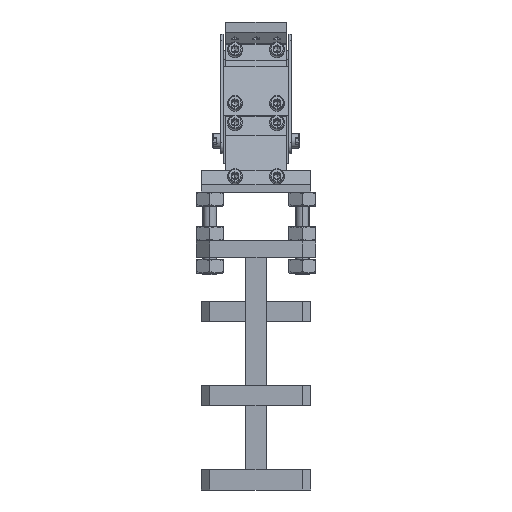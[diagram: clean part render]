
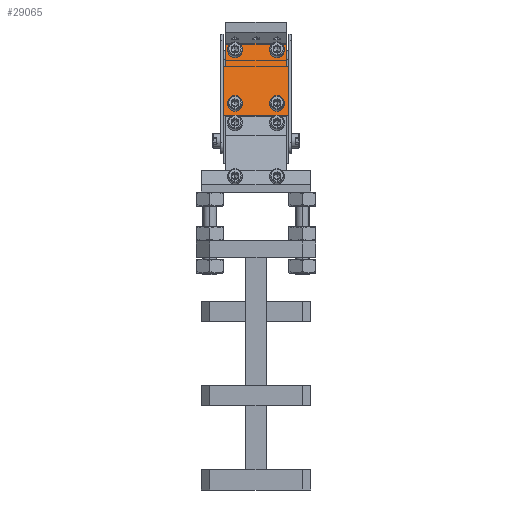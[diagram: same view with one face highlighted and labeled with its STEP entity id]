
A CAD part, left-side view. The second image highlights one B-rep face of the part: STEP entity #29065.
In plain terms, the highlighted planar face has unit normal (-0.966, 0, 0.259).
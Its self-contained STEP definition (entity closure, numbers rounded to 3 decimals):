
#19 = AXIS2_PLACEMENT_3D ( 'NONE', #15087, #7353, #29700 ) ;
#35 = CARTESIAN_POINT ( 'NONE',  ( -60.783, -12.5, 51.058 ) ) ;
#143 = DIRECTION ( 'NONE',  ( 0.259, 0., 0.966 ) ) ;
#219 = DIRECTION ( 'NONE',  ( 0., -1., 0. ) ) ;
#405 = ORIENTED_EDGE ( 'NONE', *, *, #21173, .F. ) ;
#503 = VERTEX_POINT ( 'NONE', #28128 ) ;
#518 = CIRCLE ( 'NONE', #19, 2.1 ) ;
#542 = EDGE_CURVE ( 'NONE', #6622, #27770, #30742, .T. ) ;
#599 = VERTEX_POINT ( 'NONE', #4452 ) ;
#787 = AXIS2_PLACEMENT_3D ( 'NONE', #12955, #30314, #29983 ) ;
#1167 = EDGE_CURVE ( 'NONE', #16539, #5334, #7156, .T. ) ;
#1653 = CARTESIAN_POINT ( 'NONE',  ( -61.327, 12.5, 49.029 ) ) ;
#1714 = CARTESIAN_POINT ( 'NONE',  ( -52.954, 12.5, 80.277 ) ) ;
#1766 = VERTEX_POINT ( 'NONE', #23495 ) ;
#1991 = EDGE_CURVE ( 'NONE', #30818, #3094, #20210, .T. ) ;
#2034 = VERTEX_POINT ( 'NONE', #5556 ) ;
#2304 = LINE ( 'NONE', #14088, #16663 ) ;
#2859 = CARTESIAN_POINT ( 'NONE',  ( -51.53, -12.5, 85.59 ) ) ;
#3008 = AXIS2_PLACEMENT_3D ( 'NONE', #29117, #31697, #17372 ) ;
#3094 = VERTEX_POINT ( 'NONE', #30283 ) ;
#4346 = ORIENTED_EDGE ( 'NONE', *, *, #9750, .F. ) ;
#4452 = CARTESIAN_POINT ( 'NONE',  ( -62.549, 19.5, 44.466 ) ) ;
#4656 = CIRCLE ( 'NONE', #18034, 2.75 ) ;
#4719 = ORIENTED_EDGE ( 'NONE', *, *, #16991, .F. ) ;
#5334 = VERTEX_POINT ( 'NONE', #23085 ) ;
#5556 = CARTESIAN_POINT ( 'NONE',  ( -52.954, -12.5, 80.277 ) ) ;
#5593 = EDGE_CURVE ( 'NONE', #3094, #16539, #19687, .T. ) ;
#5871 = VECTOR ( 'NONE', #24530, 1000. ) ;
#5911 = EDGE_CURVE ( 'NONE', #2034, #16981, #21715, .T. ) ;
#6123 = FACE_BOUND ( 'NONE', #23278, .T. ) ;
#6196 = EDGE_CURVE ( 'NONE', #29430, #13658, #19704, .T. ) ;
#6622 = VERTEX_POINT ( 'NONE', #31069 ) ;
#6628 = CARTESIAN_POINT ( 'NONE',  ( -60.24, -12.5, 53.086 ) ) ;
#6823 = ORIENTED_EDGE ( 'NONE', *, *, #28472, .F. ) ;
#6876 = CARTESIAN_POINT ( 'NONE',  ( -54.78, 18., 73.46 ) ) ;
#7156 = LINE ( 'NONE', #22111, #5871 ) ;
#7308 = ORIENTED_EDGE ( 'NONE', *, *, #8653, .T. ) ;
#7353 = DIRECTION ( 'NONE',  ( -0.966, 0., 0.259 ) ) ;
#7424 = VECTOR ( 'NONE', #19740, 1000. ) ;
#8335 = LINE ( 'NONE', #28123, #29855 ) ;
#8388 = FACE_BOUND ( 'NONE', #16494, .T. ) ;
#8484 = CARTESIAN_POINT ( 'NONE',  ( -54.78, -19.5, 73.46 ) ) ;
#8653 = EDGE_CURVE ( 'NONE', #503, #599, #28892, .T. ) ;
#8746 = DIRECTION ( 'NONE',  ( 0.259, 0., 0.966 ) ) ;
#8885 = AXIS2_PLACEMENT_3D ( 'NONE', #16455, #28506, #11152 ) ;
#8898 = CARTESIAN_POINT ( 'NONE',  ( -60.783, 12.5, 51.058 ) ) ;
#8953 = EDGE_LOOP ( 'NONE', ( #405, #20111 ) ) ;
#9367 = DIRECTION ( 'NONE',  ( -0.966, 0., 0.259 ) ) ;
#9394 = VECTOR ( 'NONE', #21091, 1000. ) ;
#9397 = CARTESIAN_POINT ( 'NONE',  ( -51.078, 0., 87.28 ) ) ;
#9655 = ORIENTED_EDGE ( 'NONE', *, *, #12550, .T. ) ;
#9750 = EDGE_CURVE ( 'NONE', #1766, #15996, #13493, .T. ) ;
#10040 = VERTEX_POINT ( 'NONE', #27853 ) ;
#10042 = CIRCLE ( 'NONE', #787, 2.1 ) ;
#10240 = CARTESIAN_POINT ( 'NONE',  ( -63.879, 18., 39.504 ) ) ;
#10756 = DIRECTION ( 'NONE',  ( 0., -1., 0. ) ) ;
#11152 = DIRECTION ( 'NONE',  ( 0.259, 0., 0.966 ) ) ;
#11503 = DIRECTION ( 'NONE',  ( 0., -1., 0. ) ) ;
#12550 = EDGE_CURVE ( 'NONE', #599, #15996, #30609, .T. ) ;
#12955 = CARTESIAN_POINT ( 'NONE',  ( -60.783, -12.5, 51.058 ) ) ;
#13194 = DIRECTION ( 'NONE',  ( -0.966, 0., 0.259 ) ) ;
#13358 = ORIENTED_EDGE ( 'NONE', *, *, #13783, .F. ) ;
#13493 = LINE ( 'NONE', #8484, #21132 ) ;
#13629 = ORIENTED_EDGE ( 'NONE', *, *, #29771, .F. ) ;
#13658 = VERTEX_POINT ( 'NONE', #1653 ) ;
#13783 = EDGE_CURVE ( 'NONE', #503, #30818, #2304, .T. ) ;
#14088 = CARTESIAN_POINT ( 'NONE',  ( -54.78, 0., 73.46 ) ) ;
#15087 = CARTESIAN_POINT ( 'NONE',  ( -60.783, 12.5, 51.058 ) ) ;
#15309 = ORIENTED_EDGE ( 'NONE', *, *, #6196, .F. ) ;
#15643 = CARTESIAN_POINT ( 'NONE',  ( -63.879, 0., 39.504 ) ) ;
#15798 = PLANE ( 'NONE',  #26696 ) ;
#15996 = VERTEX_POINT ( 'NONE', #25391 ) ;
#16209 = DIRECTION ( 'NONE',  ( -0.259, 0., -0.966 ) ) ;
#16229 = EDGE_LOOP ( 'NONE', ( #13358, #7308, #9655, #4346, #31100, #21928, #30182, #16260 ) ) ;
#16257 = CIRCLE ( 'NONE', #26510, 2.1 ) ;
#16260 = ORIENTED_EDGE ( 'NONE', *, *, #1991, .F. ) ;
#16455 = CARTESIAN_POINT ( 'NONE',  ( -52.242, -12.5, 82.933 ) ) ;
#16466 = VERTEX_POINT ( 'NONE', #6628 ) ;
#16494 = EDGE_LOOP ( 'NONE', ( #4719, #26274 ) ) ;
#16539 = VERTEX_POINT ( 'NONE', #22217 ) ;
#16663 = VECTOR ( 'NONE', #11503, 1000. ) ;
#16885 = AXIS2_PLACEMENT_3D ( 'NONE', #30698, #13194, #25882 ) ;
#16903 = CIRCLE ( 'NONE', #3008, 2.75 ) ;
#16981 = VERTEX_POINT ( 'NONE', #2859 ) ;
#16991 = EDGE_CURVE ( 'NONE', #16981, #2034, #4656, .T. ) ;
#17003 = EDGE_LOOP ( 'NONE', ( #19851, #6823 ) ) ;
#17124 = EDGE_CURVE ( 'NONE', #5334, #1766, #8335, .T. ) ;
#17372 = DIRECTION ( 'NONE',  ( 0.259, 0., 0.966 ) ) ;
#18034 = AXIS2_PLACEMENT_3D ( 'NONE', #29732, #27481, #143 ) ;
#18512 = DIRECTION ( 'NONE',  ( 0.966, 0., -0.259 ) ) ;
#19687 = LINE ( 'NONE', #9397, #29727 ) ;
#19704 = CIRCLE ( 'NONE', #24848, 2.1 ) ;
#19740 = DIRECTION ( 'NONE',  ( 0.259, 0., 0.966 ) ) ;
#19851 = ORIENTED_EDGE ( 'NONE', *, *, #542, .F. ) ;
#20111 = ORIENTED_EDGE ( 'NONE', *, *, #22120, .F. ) ;
#20210 = LINE ( 'NONE', #10240, #7424 ) ;
#20762 = FACE_BOUND ( 'NONE', #8953, .T. ) ;
#21091 = DIRECTION ( 'NONE',  ( 0., -1., 0. ) ) ;
#21132 = VECTOR ( 'NONE', #16209, 1000. ) ;
#21173 = EDGE_CURVE ( 'NONE', #16466, #10040, #16257, .T. ) ;
#21259 = CARTESIAN_POINT ( 'NONE',  ( -62.549, -19.5, 44.466 ) ) ;
#21281 = DIRECTION ( 'NONE',  ( -0.966, 0., 0.259 ) ) ;
#21715 = CIRCLE ( 'NONE', #8885, 2.75 ) ;
#21928 = ORIENTED_EDGE ( 'NONE', *, *, #1167, .F. ) ;
#22111 = CARTESIAN_POINT ( 'NONE',  ( -63.879, -18., 39.504 ) ) ;
#22120 = EDGE_CURVE ( 'NONE', #10040, #16466, #10042, .T. ) ;
#22172 = VECTOR ( 'NONE', #24216, 1000. ) ;
#22217 = CARTESIAN_POINT ( 'NONE',  ( -51.078, -18., 87.28 ) ) ;
#22855 = DIRECTION ( 'NONE',  ( -0.259, 0., -0.966 ) ) ;
#23085 = CARTESIAN_POINT ( 'NONE',  ( -54.78, -18., 73.46 ) ) ;
#23278 = EDGE_LOOP ( 'NONE', ( #15309, #13629 ) ) ;
#23495 = CARTESIAN_POINT ( 'NONE',  ( -54.78, -19.5, 73.46 ) ) ;
#24216 = DIRECTION ( 'NONE',  ( -0.259, 0., -0.966 ) ) ;
#24530 = DIRECTION ( 'NONE',  ( -0.259, 0., -0.966 ) ) ;
#24848 = AXIS2_PLACEMENT_3D ( 'NONE', #8898, #21281, #8746 ) ;
#25391 = CARTESIAN_POINT ( 'NONE',  ( -62.549, -19.5, 44.466 ) ) ;
#25882 = DIRECTION ( 'NONE',  ( 0.259, 0., 0.966 ) ) ;
#26274 = ORIENTED_EDGE ( 'NONE', *, *, #5911, .F. ) ;
#26510 = AXIS2_PLACEMENT_3D ( 'NONE', #35, #9367, #27060 ) ;
#26696 = AXIS2_PLACEMENT_3D ( 'NONE', #15643, #18512, #22855 ) ;
#27060 = DIRECTION ( 'NONE',  ( 0.259, 0., 0.966 ) ) ;
#27332 = CARTESIAN_POINT ( 'NONE',  ( -60.24, 12.5, 53.086 ) ) ;
#27481 = DIRECTION ( 'NONE',  ( -0.966, 0., 0.259 ) ) ;
#27770 = VERTEX_POINT ( 'NONE', #1714 ) ;
#27853 = CARTESIAN_POINT ( 'NONE',  ( -61.327, -12.5, 49.029 ) ) ;
#28123 = CARTESIAN_POINT ( 'NONE',  ( -54.78, 0., 73.46 ) ) ;
#28128 = CARTESIAN_POINT ( 'NONE',  ( -54.78, 19.5, 73.46 ) ) ;
#28472 = EDGE_CURVE ( 'NONE', #27770, #6622, #16903, .T. ) ;
#28506 = DIRECTION ( 'NONE',  ( -0.966, 0., 0.259 ) ) ;
#28892 = LINE ( 'NONE', #31470, #22172 ) ;
#29065 = ADVANCED_FACE ( 'NONE', ( #30270, #20762, #6123, #30896, #8388 ), #15798, .F. ) ;
#29117 = CARTESIAN_POINT ( 'NONE',  ( -52.242, 12.5, 82.933 ) ) ;
#29430 = VERTEX_POINT ( 'NONE', #27332 ) ;
#29700 = DIRECTION ( 'NONE',  ( 0.259, 0., 0.966 ) ) ;
#29727 = VECTOR ( 'NONE', #219, 1000. ) ;
#29732 = CARTESIAN_POINT ( 'NONE',  ( -52.242, -12.5, 82.933 ) ) ;
#29771 = EDGE_CURVE ( 'NONE', #13658, #29430, #518, .T. ) ;
#29855 = VECTOR ( 'NONE', #10756, 1000. ) ;
#29983 = DIRECTION ( 'NONE',  ( 0.259, 0., 0.966 ) ) ;
#30182 = ORIENTED_EDGE ( 'NONE', *, *, #5593, .F. ) ;
#30270 = FACE_OUTER_BOUND ( 'NONE', #16229, .T. ) ;
#30283 = CARTESIAN_POINT ( 'NONE',  ( -51.078, 18., 87.28 ) ) ;
#30314 = DIRECTION ( 'NONE',  ( -0.966, 0., 0.259 ) ) ;
#30609 = LINE ( 'NONE', #21259, #9394 ) ;
#30698 = CARTESIAN_POINT ( 'NONE',  ( -52.242, 12.5, 82.933 ) ) ;
#30742 = CIRCLE ( 'NONE', #16885, 2.75 ) ;
#30818 = VERTEX_POINT ( 'NONE', #6876 ) ;
#30896 = FACE_BOUND ( 'NONE', #17003, .T. ) ;
#31069 = CARTESIAN_POINT ( 'NONE',  ( -51.53, 12.5, 85.59 ) ) ;
#31100 = ORIENTED_EDGE ( 'NONE', *, *, #17124, .F. ) ;
#31470 = CARTESIAN_POINT ( 'NONE',  ( -54.78, 19.5, 73.46 ) ) ;
#31697 = DIRECTION ( 'NONE',  ( -0.966, 0., 0.259 ) ) ;
